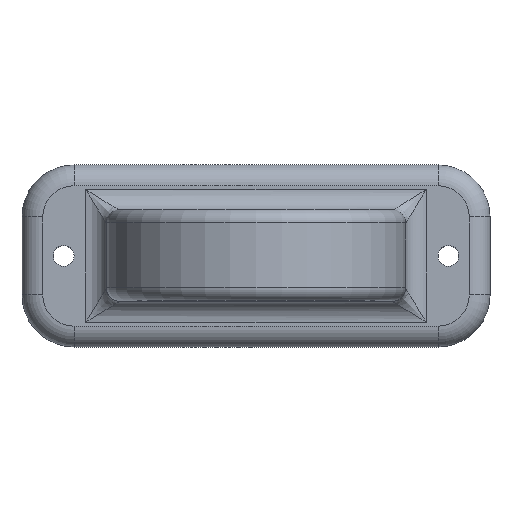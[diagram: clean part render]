
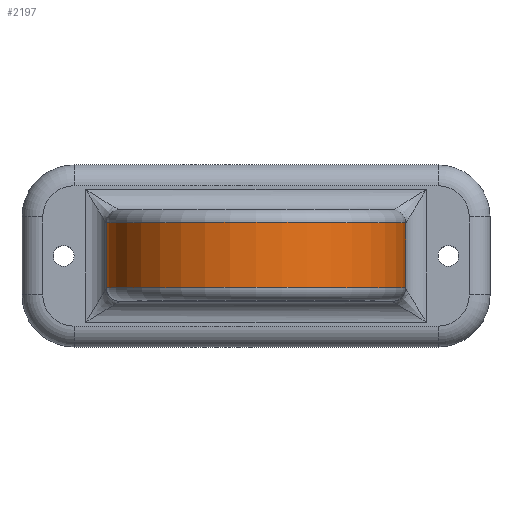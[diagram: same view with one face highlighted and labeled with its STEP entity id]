
A CAD part, top view. The second image highlights one B-rep face of the part: STEP entity #2197.
In plain terms, the highlighted cylindrical face has radius 57.5 mm (diameter 115 mm), a partial arc.
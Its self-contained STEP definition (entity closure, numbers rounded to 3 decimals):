
#741 = VERTEX_POINT('',#742);
#742 = CARTESIAN_POINT('',(57.25,81.25,50.));
#811 = VERTEX_POINT('',#812);
#812 = CARTESIAN_POINT('',(-57.75,81.25,50.));
#821 = EDGE_CURVE('',#811,#741,#822,.T.);
#822 = CIRCLE('',#823,57.5);
#823 = AXIS2_PLACEMENT_3D('',#824,#825,#826);
#824 = CARTESIAN_POINT('',(-0.25,81.25,50.));
#825 = DIRECTION('',(0.,1.,0.));
#826 = DIRECTION('',(-1.,0.,0.));
#2022 = VERTEX_POINT('',#2023);
#2023 = CARTESIAN_POINT('',(57.25,106.25,50.));
#2029 = EDGE_CURVE('',#2022,#741,#2030,.T.);
#2030 = LINE('',#2031,#2032);
#2031 = CARTESIAN_POINT('',(57.25,111.25,50.));
#2032 = VECTOR('',#2033,1.);
#2033 = DIRECTION('',(0.,-1.,0.));
#2103 = EDGE_CURVE('',#2104,#811,#2106,.T.);
#2104 = VERTEX_POINT('',#2105);
#2105 = CARTESIAN_POINT('',(-57.75,106.25,50.));
#2106 = LINE('',#2107,#2108);
#2107 = CARTESIAN_POINT('',(-57.75,111.25,50.));
#2108 = VECTOR('',#2109,1.);
#2109 = DIRECTION('',(0.,-1.,0.));
#2197 = ADVANCED_FACE('',(#2198),#2210,.T.);
#2198 = FACE_BOUND('',#2199,.T.);
#2199 = EDGE_LOOP('',(#2200,#2201,#2208,#2209));
#2200 = ORIENTED_EDGE('',*,*,#2029,.F.);
#2201 = ORIENTED_EDGE('',*,*,#2202,.F.);
#2202 = EDGE_CURVE('',#2104,#2022,#2203,.T.);
#2203 = CIRCLE('',#2204,57.5);
#2204 = AXIS2_PLACEMENT_3D('',#2205,#2206,#2207);
#2205 = CARTESIAN_POINT('',(-0.25,106.25,50.));
#2206 = DIRECTION('',(0.,1.,0.));
#2207 = DIRECTION('',(-1.,0.,0.));
#2208 = ORIENTED_EDGE('',*,*,#2103,.T.);
#2209 = ORIENTED_EDGE('',*,*,#821,.T.);
#2210 = CYLINDRICAL_SURFACE('',#2211,57.5);
#2211 = AXIS2_PLACEMENT_3D('',#2212,#2213,#2214);
#2212 = CARTESIAN_POINT('',(-0.25,111.25,50.));
#2213 = DIRECTION('',(0.,1.,0.));
#2214 = DIRECTION('',(-1.,0.,0.));
